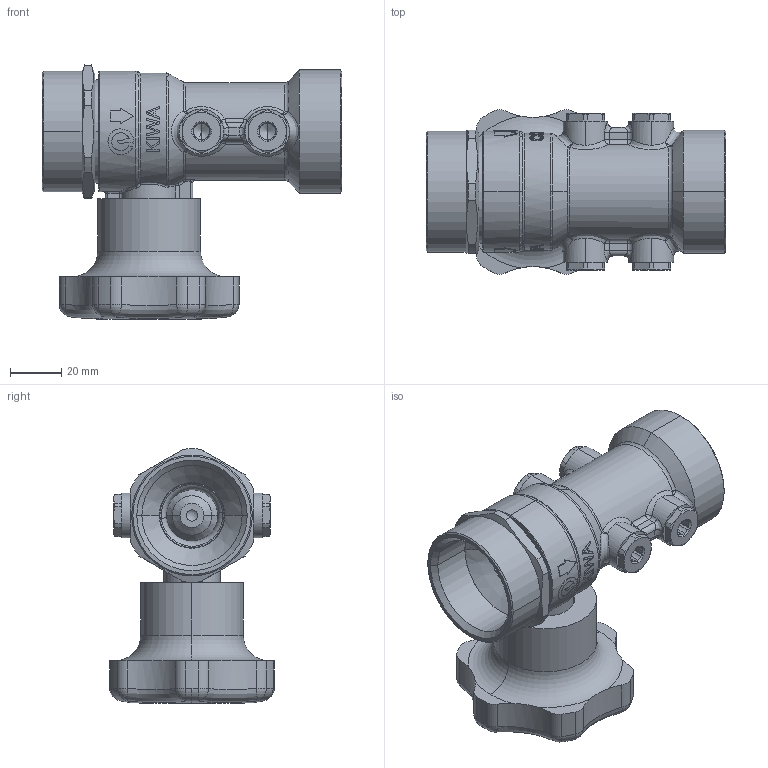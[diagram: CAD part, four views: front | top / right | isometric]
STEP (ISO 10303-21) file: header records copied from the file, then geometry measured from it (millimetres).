
FILE_DESCRIPTION (( 'STEP AP214' ), '1' );
FILE_NAME ('W228032243.STEP', '2018-09-17T07:17:30', ( '' ), ( '' ), 'SwSTEP 2.0', 'SolidWorks 2017', '' );
FILE_SCHEMA (( 'AUTOMOTIVE_DESIGN' ));
Length unit declared in the file: millimetre
Products named in the file (15): W149032618; W228032243; W034032500_W034032510UsF1p1q; 10141; 11335; W022032070; W093003102; W022014070; W092032310; 22019136W corps; 11336; W098025204; 10029; W098025201; W098025210_P627 4 pour 20 et 25
Assembly tree (22 placements, depth 3):
  W228032243
    W034032500_W034032510UsF1p1q
    W098025210_P627 4 pour 20 et 25
    10141  x2
    W098025201
    W098025204  x2
    W149032618
      22019136W corps
    W022032070
    W093003102  x4
    W022014070  x4
    11335
    10029
    11336
    W092032310
Bounding box: 116.6 x 64.11 x 99.08 mm (x, y, z)
Volume: 195880 mm3; surface area: 95230.7 mm2
Topology: 22 solids, 24 shells, 1598 faces, 4033 edges, 2522 vertices
Faces by surface type: plane 596, cylinder 455, cone 272, torus 126, bspline 115, sphere 34
Entity records: 51967 total; most frequent: CARTESIAN_POINT 17105, ORIENTED_EDGE 7104, DIRECTION 6824, EDGE_CURVE 3552, AXIS2_PLACEMENT_3D 2705, VERTEX_POINT 2232, EDGE_LOOP 1512, LINE 1414
